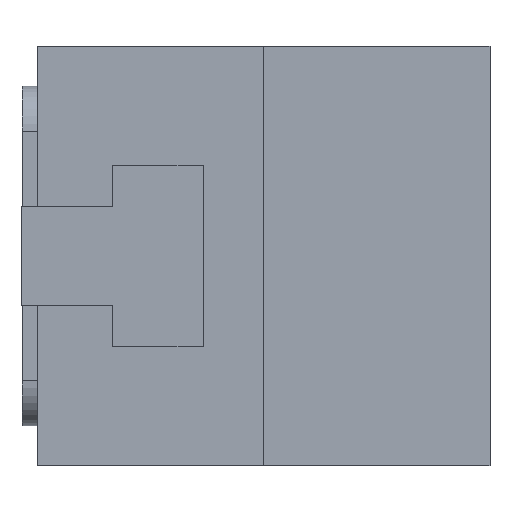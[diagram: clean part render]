
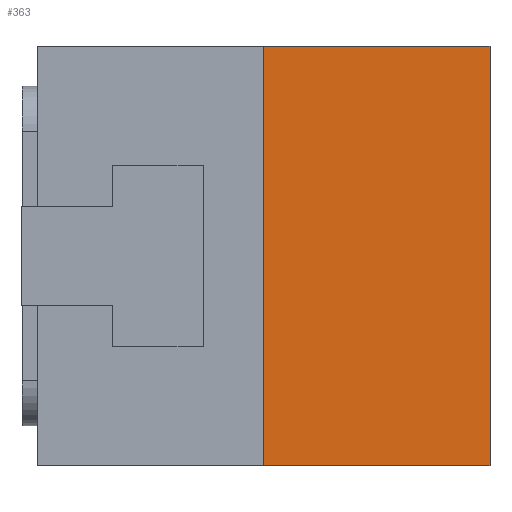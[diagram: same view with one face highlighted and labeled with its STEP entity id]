
A CAD part, left-side view. The second image highlights one B-rep face of the part: STEP entity #363.
In plain terms, the highlighted planar face has unit normal (-1, 0, 0).
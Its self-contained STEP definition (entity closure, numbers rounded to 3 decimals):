
#363 = ADVANCED_FACE( '', ( #878 ), #879, .F. );
#878 = FACE_OUTER_BOUND( '', #1667, .T. );
#879 = PLANE( '', #1668 );
#1667 = EDGE_LOOP( '', ( #2566, #2567, #2568, #2569 ) );
#1668 = AXIS2_PLACEMENT_3D( '', #2570, #2571, #2572 );
#2566 = ORIENTED_EDGE( '', *, *, #4243, .T. );
#2567 = ORIENTED_EDGE( '', *, *, #4244, .F. );
#2568 = ORIENTED_EDGE( '', *, *, #4245, .F. );
#2569 = ORIENTED_EDGE( '', *, *, #4239, .T. );
#2570 = CARTESIAN_POINT( '', ( -21., 15., 13.9 ) );
#2571 = DIRECTION( '', ( 1., 0., 0. ) );
#2572 = DIRECTION( '', ( 0., 0., -1. ) );
#4239 = EDGE_CURVE( '', #5001, #4999, #5002, .T. );
#4243 = EDGE_CURVE( '', #4999, #5007, #5008, .T. );
#4244 = EDGE_CURVE( '', #5009, #5007, #5010, .T. );
#4245 = EDGE_CURVE( '', #5001, #5009, #5011, .T. );
#4999 = VERTEX_POINT( '', #6054 );
#5001 = VERTEX_POINT( '', #6057 );
#5002 = LINE( '', #6058, #6059 );
#5007 = VERTEX_POINT( '', #6066 );
#5008 = LINE( '', #6067, #6068 );
#5009 = VERTEX_POINT( '', #6069 );
#5010 = LINE( '', #6070, #6071 );
#5011 = LINE( '', #6072, #6073 );
#6054 = CARTESIAN_POINT( '', ( -21., 15., -13.9 ) );
#6057 = CARTESIAN_POINT( '', ( -21., 15., 13.9 ) );
#6058 = CARTESIAN_POINT( '', ( -21., 15., 13.9 ) );
#6059 = VECTOR( '', #7370, 1000. );
#6066 = CARTESIAN_POINT( '', ( -21., 0., -13.9 ) );
#6067 = CARTESIAN_POINT( '', ( -21., 15., -13.9 ) );
#6068 = VECTOR( '', #7373, 1000. );
#6069 = CARTESIAN_POINT( '', ( -21., 0., 13.9 ) );
#6070 = CARTESIAN_POINT( '', ( -21., 0., 13.9 ) );
#6071 = VECTOR( '', #7374, 1000. );
#6072 = CARTESIAN_POINT( '', ( -21., 15., 13.9 ) );
#6073 = VECTOR( '', #7375, 1000. );
#7370 = DIRECTION( '', ( 0., 0., -1. ) );
#7373 = DIRECTION( '', ( 0., -1., 0. ) );
#7374 = DIRECTION( '', ( 0., 0., -1. ) );
#7375 = DIRECTION( '', ( 0., -1., 0. ) );
